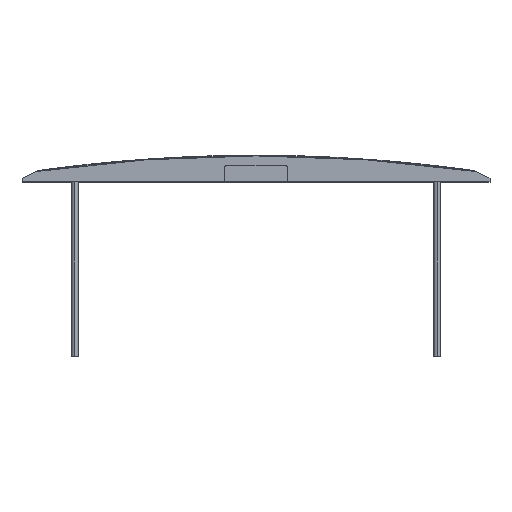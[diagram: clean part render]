
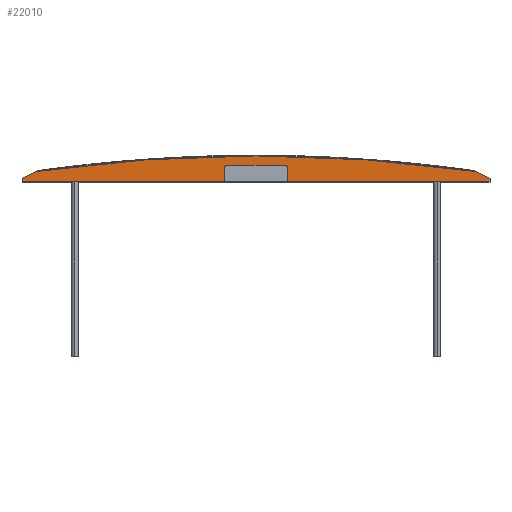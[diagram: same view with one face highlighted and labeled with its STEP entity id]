
A CAD part, top view. The second image highlights one B-rep face of the part: STEP entity #22010.
In plain terms, the highlighted planar face has unit normal (0, 0, 1).
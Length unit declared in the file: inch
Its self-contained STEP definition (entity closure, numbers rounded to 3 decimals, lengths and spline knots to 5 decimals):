
#137 = AXIS2_PLACEMENT_3D ( 'NONE', #16224, #27957, #13757 ) ;
#570 = VERTEX_POINT ( 'NONE', #14464 ) ;
#788 = VECTOR ( 'NONE', #837, 39.37008 ) ;
#837 = DIRECTION ( 'NONE',  ( 0., -1., 0. ) ) ;
#846 = ORIENTED_EDGE ( 'NONE', *, *, #23112, .T. ) ;
#1321 = CARTESIAN_POINT ( 'NONE',  ( -2.15, 1.25, 19.7 ) ) ;
#1367 = LINE ( 'NONE', #8780, #26278 ) ;
#1709 = EDGE_CURVE ( 'NONE', #12518, #27148, #11783, .T. ) ;
#1831 = CIRCLE ( 'NONE', #7096, 0.25 ) ;
#2019 = DIRECTION ( 'NONE',  ( -1., 0., 0. ) ) ;
#2250 = ORIENTED_EDGE ( 'NONE', *, *, #25401, .T. ) ;
#2529 = DIRECTION ( 'NONE',  ( 1., 0., 0. ) ) ;
#2533 = DIRECTION ( 'NONE',  ( 1., 0., 0. ) ) ;
#2586 = AXIS2_PLACEMENT_3D ( 'NONE', #6614, #20630, #15763 ) ;
#3145 = EDGE_CURVE ( 'NONE', #570, #29816, #3681, .T. ) ;
#3234 = CARTESIAN_POINT ( 'NONE',  ( -17.7, 0., 19.7 ) ) ;
#3367 = CARTESIAN_POINT ( 'NONE',  ( 17.7, 0.25, 19.7 ) ) ;
#3681 = LINE ( 'NONE', #12249, #23487 ) ;
#4002 = LINE ( 'NONE', #3367, #12445 ) ;
#4163 = CARTESIAN_POINT ( 'NONE',  ( -2.4, 1.25, 19.7 ) ) ;
#4301 = CARTESIAN_POINT ( 'NONE',  ( -17.7, 0.25, 19.7 ) ) ;
#5242 = EDGE_CURVE ( 'NONE', #27148, #9734, #24202, .T. ) ;
#5614 = LINE ( 'NONE', #28022, #14430 ) ;
#5843 = ORIENTED_EDGE ( 'NONE', *, *, #13319, .F. ) ;
#6293 = VECTOR ( 'NONE', #12231, 39.37008 ) ;
#6455 = AXIS2_PLACEMENT_3D ( 'NONE', #12505, #19688, #21905 ) ;
#6614 = CARTESIAN_POINT ( 'NONE',  ( 0., -115.97675, 19.7 ) ) ;
#6890 = DIRECTION ( 'NONE',  ( 0., 1., 0. ) ) ;
#7096 = AXIS2_PLACEMENT_3D ( 'NONE', #19034, #7618, #16674 ) ;
#7209 = ORIENTED_EDGE ( 'NONE', *, *, #1709, .T. ) ;
#7469 = VERTEX_POINT ( 'NONE', #26581 ) ;
#7618 = DIRECTION ( 'NONE',  ( 0., 0., -1. ) ) ;
#8202 = ORIENTED_EDGE ( 'NONE', *, *, #25933, .F. ) ;
#8780 = CARTESIAN_POINT ( 'NONE',  ( 2.4, 0., 19.7 ) ) ;
#8861 = PLANE ( 'NONE',  #2586 ) ;
#9734 = VERTEX_POINT ( 'NONE', #4301 ) ;
#9842 = VERTEX_POINT ( 'NONE', #28059 ) ;
#10423 = ORIENTED_EDGE ( 'NONE', *, *, #23881, .T. ) ;
#10818 = ORIENTED_EDGE ( 'NONE', *, *, #3145, .T. ) ;
#11535 = ORIENTED_EDGE ( 'NONE', *, *, #5242, .T. ) ;
#11718 = EDGE_CURVE ( 'NONE', #23366, #7469, #5614, .T. ) ;
#11783 = CIRCLE ( 'NONE', #6455, 117.92476 ) ;
#12002 = CIRCLE ( 'NONE', #137, 0.25 ) ;
#12231 = DIRECTION ( 'NONE',  ( 0., -1., 0. ) ) ;
#12249 = CARTESIAN_POINT ( 'NONE',  ( -17.7, 0., 19.7 ) ) ;
#12445 = VECTOR ( 'NONE', #17308, 39.37008 ) ;
#12505 = CARTESIAN_POINT ( 'NONE',  ( 0., -115.97675, 19.7 ) ) ;
#12518 = VERTEX_POINT ( 'NONE', #29385 ) ;
#12601 = ORIENTED_EDGE ( 'NONE', *, *, #18829, .T. ) ;
#13319 = EDGE_CURVE ( 'NONE', #18575, #29816, #24260, .T. ) ;
#13757 = DIRECTION ( 'NONE',  ( -1., 0., 0. ) ) ;
#13986 = EDGE_CURVE ( 'NONE', #24968, #25912, #20924, .T. ) ;
#14430 = VECTOR ( 'NONE', #2529, 39.37008 ) ;
#14464 = CARTESIAN_POINT ( 'NONE',  ( -17.7, 0., 19.7 ) ) ;
#14726 = VECTOR ( 'NONE', #2019, 39.37008 ) ;
#14730 = FACE_OUTER_BOUND ( 'NONE', #25082, .T. ) ;
#14853 = CARTESIAN_POINT ( 'NONE',  ( -2.4, 0., 19.7 ) ) ;
#15144 = CARTESIAN_POINT ( 'NONE',  ( -16.7, 0.75953, 19.7 ) ) ;
#15263 = LINE ( 'NONE', #23087, #24024 ) ;
#15661 = DIRECTION ( 'NONE',  ( -0.891, -0.454, 0. ) ) ;
#15682 = DIRECTION ( 'NONE',  ( 0., 1., 0. ) ) ;
#15763 = DIRECTION ( 'NONE',  ( -1., 0., 0. ) ) ;
#15982 = LINE ( 'NONE', #3234, #6293 ) ;
#16174 = CARTESIAN_POINT ( 'NONE',  ( -2.4, 1., 19.7 ) ) ;
#16224 = CARTESIAN_POINT ( 'NONE',  ( 2.15, 1., 19.7 ) ) ;
#16674 = DIRECTION ( 'NONE',  ( -1., 0., 0. ) ) ;
#16796 = CARTESIAN_POINT ( 'NONE',  ( 2.15, 1.25, 19.7 ) ) ;
#17252 = VECTOR ( 'NONE', #15661, 39.37008 ) ;
#17308 = DIRECTION ( 'NONE',  ( -0.891, 0.454, 0. ) ) ;
#18575 = VERTEX_POINT ( 'NONE', #16174 ) ;
#18829 = EDGE_CURVE ( 'NONE', #9734, #570, #15982, .T. ) ;
#19034 = CARTESIAN_POINT ( 'NONE',  ( -2.15, 1., 19.7 ) ) ;
#19244 = ORIENTED_EDGE ( 'NONE', *, *, #13986, .F. ) ;
#19688 = DIRECTION ( 'NONE',  ( 0., 0., 1. ) ) ;
#19826 = VERTEX_POINT ( 'NONE', #21770 ) ;
#19838 = ORIENTED_EDGE ( 'NONE', *, *, #27377, .T. ) ;
#20630 = DIRECTION ( 'NONE',  ( 0., 0., -1. ) ) ;
#20924 = LINE ( 'NONE', #4163, #14726 ) ;
#21770 = CARTESIAN_POINT ( 'NONE',  ( 2.4, 1., 19.7 ) ) ;
#21905 = DIRECTION ( 'NONE',  ( -1., 0., 0. ) ) ;
#22010 = ADVANCED_FACE ( 'NONE', ( #14730 ), #8861, .F. ) ;
#23086 = CARTESIAN_POINT ( 'NONE',  ( 2.4, 0., 19.7 ) ) ;
#23087 = CARTESIAN_POINT ( 'NONE',  ( 17.7, 0., 19.7 ) ) ;
#23112 = EDGE_CURVE ( 'NONE', #18575, #25912, #1831, .T. ) ;
#23366 = VERTEX_POINT ( 'NONE', #23086 ) ;
#23487 = VECTOR ( 'NONE', #2533, 39.37008 ) ;
#23881 = EDGE_CURVE ( 'NONE', #9842, #12518, #4002, .T. ) ;
#24024 = VECTOR ( 'NONE', #6890, 39.37008 ) ;
#24202 = LINE ( 'NONE', #29644, #17252 ) ;
#24260 = LINE ( 'NONE', #28909, #788 ) ;
#24968 = VERTEX_POINT ( 'NONE', #16796 ) ;
#25082 = EDGE_LOOP ( 'NONE', ( #5843, #846, #19244, #2250, #8202, #26256, #19838, #10423, #7209, #11535, #12601, #10818 ) ) ;
#25401 = EDGE_CURVE ( 'NONE', #24968, #19826, #12002, .T. ) ;
#25912 = VERTEX_POINT ( 'NONE', #1321 ) ;
#25933 = EDGE_CURVE ( 'NONE', #23366, #19826, #1367, .T. ) ;
#26256 = ORIENTED_EDGE ( 'NONE', *, *, #11718, .T. ) ;
#26278 = VECTOR ( 'NONE', #15682, 39.37008 ) ;
#26581 = CARTESIAN_POINT ( 'NONE',  ( 17.7, 0., 19.7 ) ) ;
#27148 = VERTEX_POINT ( 'NONE', #15144 ) ;
#27377 = EDGE_CURVE ( 'NONE', #7469, #9842, #15263, .T. ) ;
#27957 = DIRECTION ( 'NONE',  ( 0., 0., -1. ) ) ;
#28022 = CARTESIAN_POINT ( 'NONE',  ( -17.7, 0., 19.7 ) ) ;
#28059 = CARTESIAN_POINT ( 'NONE',  ( 17.7, 0.25, 19.7 ) ) ;
#28909 = CARTESIAN_POINT ( 'NONE',  ( -2.4, 0., 19.7 ) ) ;
#29385 = CARTESIAN_POINT ( 'NONE',  ( 16.7, 0.75953, 19.7 ) ) ;
#29644 = CARTESIAN_POINT ( 'NONE',  ( -17.7, 0.25, 19.7 ) ) ;
#29816 = VERTEX_POINT ( 'NONE', #14853 ) ;
